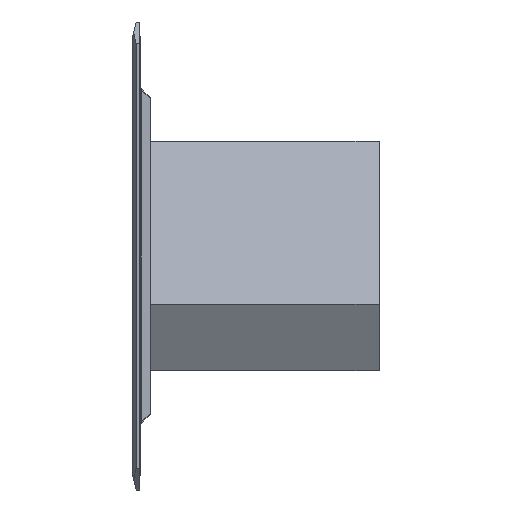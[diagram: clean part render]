
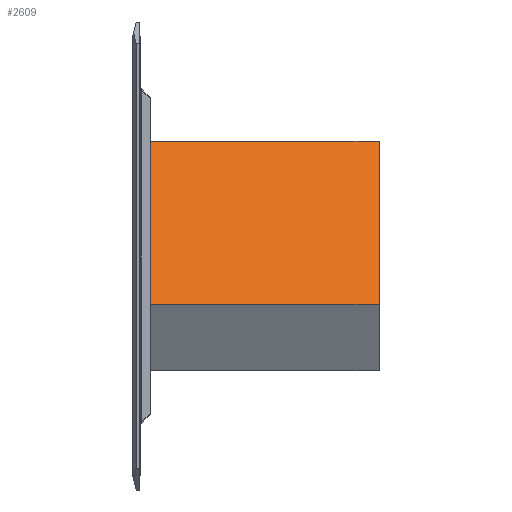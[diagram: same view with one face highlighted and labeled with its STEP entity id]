
A CAD part, left-side view. The second image highlights one B-rep face of the part: STEP entity #2609.
In plain terms, the highlighted planar face has unit normal (-0.866, 0, 0.5) as drawn and (1, 0, 0) by its records, which use the part's own axes.
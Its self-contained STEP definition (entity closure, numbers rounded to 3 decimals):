
#71 = VERTEX_POINT ( 'NONE', #6796 ) ;
#323 = EDGE_CURVE ( 'NONE', #5852, #8397, #3052, .T. ) ;
#338 = VECTOR ( 'NONE', #4038, 1000. ) ;
#634 = VECTOR ( 'NONE', #4130, 1000. ) ;
#1139 = LINE ( 'NONE', #4173, #338 ) ;
#1237 = CARTESIAN_POINT ( 'NONE',  ( 52., 342.5, 251.726 ) ) ;
#1585 = PLANE ( 'NONE',  #8857 ) ;
#1890 = VECTOR ( 'NONE', #5937, 1000. ) ;
#2239 = LINE ( 'NONE', #5870, #6990 ) ;
#2607 = CARTESIAN_POINT ( 'NONE',  ( 52., 342.5, -311.77 ) ) ;
#2609 = ADVANCED_FACE ( 'NONE', ( #8073 ), #1585, .F. ) ;
#3052 = LINE ( 'NONE', #5240, #1890 ) ;
#3149 = EDGE_CURVE ( 'NONE', #6653, #71, #7668, .T. ) ;
#3192 = EDGE_CURVE ( 'NONE', #6653, #5852, #1139, .T. ) ;
#3705 = CARTESIAN_POINT ( 'NONE',  ( 52., -342.5, -311.77 ) ) ;
#4038 = DIRECTION ( 'NONE',  ( 0., 0., -1. ) ) ;
#4130 = DIRECTION ( 'NONE',  ( 0., -1., 0. ) ) ;
#4173 = CARTESIAN_POINT ( 'NONE',  ( 52., 342.5, -311.77 ) ) ;
#4478 = DIRECTION ( 'NONE',  ( -1., 0., 0. ) ) ;
#5061 = ORIENTED_EDGE ( 'NONE', *, *, #323, .F. ) ;
#5067 = ORIENTED_EDGE ( 'NONE', *, *, #3149, .T. ) ;
#5240 = CARTESIAN_POINT ( 'NONE',  ( 52., 342.5, -311.77 ) ) ;
#5852 = VERTEX_POINT ( 'NONE', #2607 ) ;
#5870 = CARTESIAN_POINT ( 'NONE',  ( 52., -342.5, -311.77 ) ) ;
#5937 = DIRECTION ( 'NONE',  ( 0., -1., 0. ) ) ;
#6154 = ORIENTED_EDGE ( 'NONE', *, *, #3192, .F. ) ;
#6217 = EDGE_CURVE ( 'NONE', #71, #8397, #2239, .T. ) ;
#6653 = VERTEX_POINT ( 'NONE', #8349 ) ;
#6669 = DIRECTION ( 'NONE',  ( 0., 0., -1. ) ) ;
#6697 = EDGE_LOOP ( 'NONE', ( #7277, #5061, #6154, #5067 ) ) ;
#6796 = CARTESIAN_POINT ( 'NONE',  ( 52., -342.5, 251.726 ) ) ;
#6990 = VECTOR ( 'NONE', #6669, 1000. ) ;
#7277 = ORIENTED_EDGE ( 'NONE', *, *, #6217, .T. ) ;
#7354 = DIRECTION ( 'NONE',  ( 0., 0., 1. ) ) ;
#7668 = LINE ( 'NONE', #1237, #634 ) ;
#8073 = FACE_OUTER_BOUND ( 'NONE', #6697, .T. ) ;
#8349 = CARTESIAN_POINT ( 'NONE',  ( 52., 342.5, 251.726 ) ) ;
#8397 = VERTEX_POINT ( 'NONE', #3705 ) ;
#8857 = AXIS2_PLACEMENT_3D ( 'NONE', #9248, #4478, #7354 ) ;
#9248 = CARTESIAN_POINT ( 'NONE',  ( 52., 342.5, -311.77 ) ) ;
